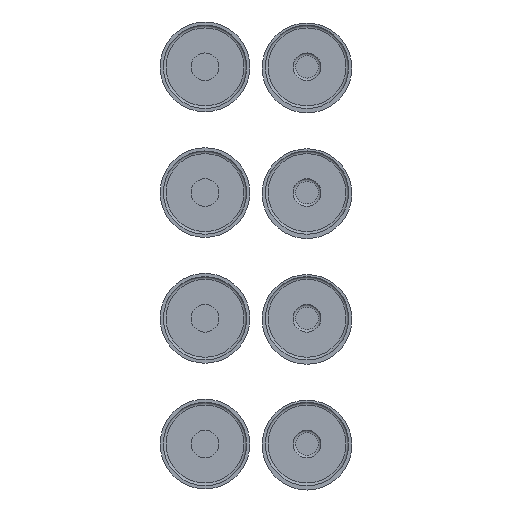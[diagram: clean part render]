
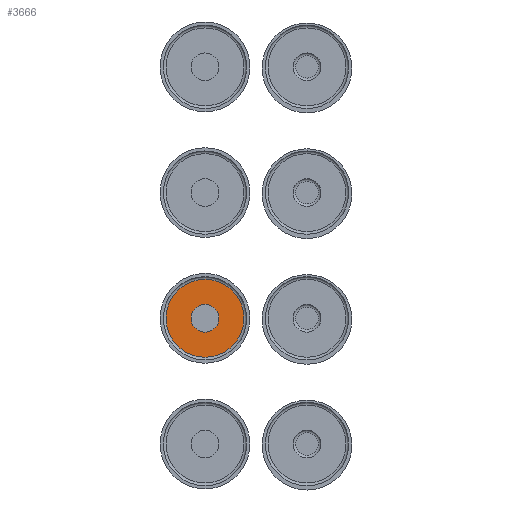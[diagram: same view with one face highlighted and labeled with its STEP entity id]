
A CAD part, front view. The second image highlights one B-rep face of the part: STEP entity #3666.
In plain terms, the highlighted planar face has unit normal (0, -1, 0) as drawn and (0, 1, 0) by its records, which use the part's own axes.
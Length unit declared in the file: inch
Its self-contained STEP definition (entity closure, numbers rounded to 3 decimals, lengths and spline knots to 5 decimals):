
#234=CIRCLE('',#3969,14.645);
#236=CIRCLE('',#3973,5.22);
#387=FACE_BOUND('',#894,.T.);
#591=FACE_OUTER_BOUND('',#893,.T.);
#893=EDGE_LOOP('',(#2918));
#894=EDGE_LOOP('',(#2919));
#1916=VERTEX_POINT('',#5721);
#1918=VERTEX_POINT('',#5727);
#2299=EDGE_CURVE('',#1916,#1916,#234,.T.);
#2301=EDGE_CURVE('',#1918,#1918,#236,.T.);
#2918=ORIENTED_EDGE('',*,*,#2299,.F.);
#2919=ORIENTED_EDGE('',*,*,#2301,.T.);
#3455=PLANE('',#3972);
#3666=ADVANCED_FACE('',(#591,#387),#3455,.F.);
#3969=AXIS2_PLACEMENT_3D('',#5722,#4706,#4707);
#3972=AXIS2_PLACEMENT_3D('',#5726,#4712,#4713);
#3973=AXIS2_PLACEMENT_3D('',#5728,#4714,#4715);
#4706=DIRECTION('center_axis',(0.,-1.,0.));
#4707=DIRECTION('ref_axis',(-1.,0.,0.));
#4712=DIRECTION('center_axis',(0.,-1.,0.));
#4713=DIRECTION('ref_axis',(0.,0.,-1.));
#4714=DIRECTION('center_axis',(0.,-1.,0.));
#4715=DIRECTION('ref_axis',(-1.,0.,0.));
#5721=CARTESIAN_POINT('',(-4.525,53.09,70.875));
#5722=CARTESIAN_POINT('Origin',(-19.17,53.09,70.875));
#5726=CARTESIAN_POINT('Origin',(-19.17,53.09,70.875));
#5727=CARTESIAN_POINT('',(-13.95,53.09,70.875));
#5728=CARTESIAN_POINT('Origin',(-19.17,53.09,70.875));
